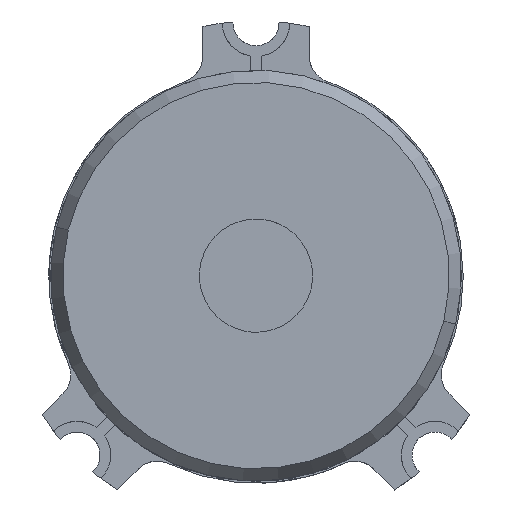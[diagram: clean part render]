
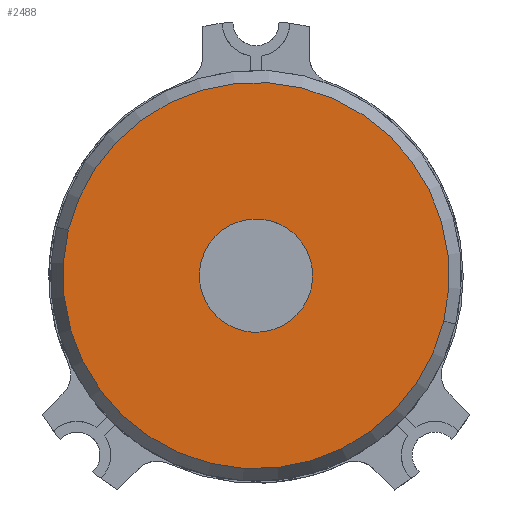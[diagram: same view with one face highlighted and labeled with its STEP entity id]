
A CAD part, top view. The second image highlights one B-rep face of the part: STEP entity #2488.
In plain terms, the highlighted planar face has unit normal (0, 0, 1).
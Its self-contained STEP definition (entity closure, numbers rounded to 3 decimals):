
#50 = AXIS2_PLACEMENT_3D ( 'NONE', #3606, #1050, #3153 ) ;
#146 = DIRECTION ( 'NONE',  ( 0.972, -0.236, 0. ) ) ;
#157 = CIRCLE ( 'NONE', #50, 1.6 ) ;
#308 = DIRECTION ( 'NONE',  ( 0.972, -0.236, 0. ) ) ;
#471 = VERTEX_POINT ( 'NONE', #4297 ) ;
#489 = EDGE_CURVE ( 'NONE', #4435, #471, #5284, .T. ) ;
#507 = DIRECTION ( 'NONE',  ( 0., 0., 1. ) ) ;
#510 = AXIS2_PLACEMENT_3D ( 'NONE', #4490, #1142, #4909 ) ;
#602 = CARTESIAN_POINT ( 'NONE',  ( -2.843, 0.427, 6.575 ) ) ;
#634 = EDGE_CURVE ( 'NONE', #4792, #3780, #157, .T. ) ;
#637 = ORIENTED_EDGE ( 'NONE', *, *, #5414, .F. ) ;
#832 = AXIS2_PLACEMENT_3D ( 'NONE', #3090, #3947, #146 ) ;
#969 = CARTESIAN_POINT ( 'NONE',  ( -1.288, 0.049, 6.575 ) ) ;
#1046 = ORIENTED_EDGE ( 'NONE', *, *, #634, .F. ) ;
#1050 = DIRECTION ( 'NONE',  ( 0., 0., 1. ) ) ;
#1142 = DIRECTION ( 'NONE',  ( 0., 0., -1. ) ) ;
#1661 = CIRCLE ( 'NONE', #510, 5.454 ) ;
#1999 = FACE_BOUND ( 'NONE', #4583, .T. ) ;
#2276 = CIRCLE ( 'NONE', #4666, 1.6 ) ;
#2433 = DIRECTION ( 'NONE',  ( 0., 0., -1. ) ) ;
#2488 = ADVANCED_FACE ( 'NONE', ( #5077, #1999 ), #3552, .F. ) ;
#2722 = EDGE_LOOP ( 'NONE', ( #637, #3339 ) ) ;
#2782 = AXIS2_PLACEMENT_3D ( 'NONE', #4942, #2433, #308 ) ;
#3018 = CARTESIAN_POINT ( 'NONE',  ( -6.588, 1.336, 6.575 ) ) ;
#3081 = DIRECTION ( 'NONE',  ( 0.972, -0.236, 0. ) ) ;
#3090 = CARTESIAN_POINT ( 'NONE',  ( -1.288, 0.049, 6.575 ) ) ;
#3153 = DIRECTION ( 'NONE',  ( 0.972, -0.236, 0. ) ) ;
#3339 = ORIENTED_EDGE ( 'NONE', *, *, #489, .F. ) ;
#3552 = PLANE ( 'NONE',  #2782 ) ;
#3606 = CARTESIAN_POINT ( 'NONE',  ( -1.288, 0.049, 6.575 ) ) ;
#3780 = VERTEX_POINT ( 'NONE', #602 ) ;
#3858 = ORIENTED_EDGE ( 'NONE', *, *, #4445, .F. ) ;
#3947 = DIRECTION ( 'NONE',  ( 0., 0., -1. ) ) ;
#4297 = CARTESIAN_POINT ( 'NONE',  ( 4.012, -1.237, 6.575 ) ) ;
#4435 = VERTEX_POINT ( 'NONE', #3018 ) ;
#4445 = EDGE_CURVE ( 'NONE', #3780, #4792, #2276, .T. ) ;
#4490 = CARTESIAN_POINT ( 'NONE',  ( -1.288, 0.049, 6.575 ) ) ;
#4583 = EDGE_LOOP ( 'NONE', ( #1046, #3858 ) ) ;
#4666 = AXIS2_PLACEMENT_3D ( 'NONE', #969, #507, #3081 ) ;
#4692 = CARTESIAN_POINT ( 'NONE',  ( 0.267, -0.328, 6.575 ) ) ;
#4792 = VERTEX_POINT ( 'NONE', #4692 ) ;
#4909 = DIRECTION ( 'NONE',  ( 0.972, -0.236, 0. ) ) ;
#4942 = CARTESIAN_POINT ( 'NONE',  ( -6.924, 1.418, 6.575 ) ) ;
#5077 = FACE_OUTER_BOUND ( 'NONE', #2722, .T. ) ;
#5284 = CIRCLE ( 'NONE', #832, 5.454 ) ;
#5414 = EDGE_CURVE ( 'NONE', #471, #4435, #1661, .T. ) ;
